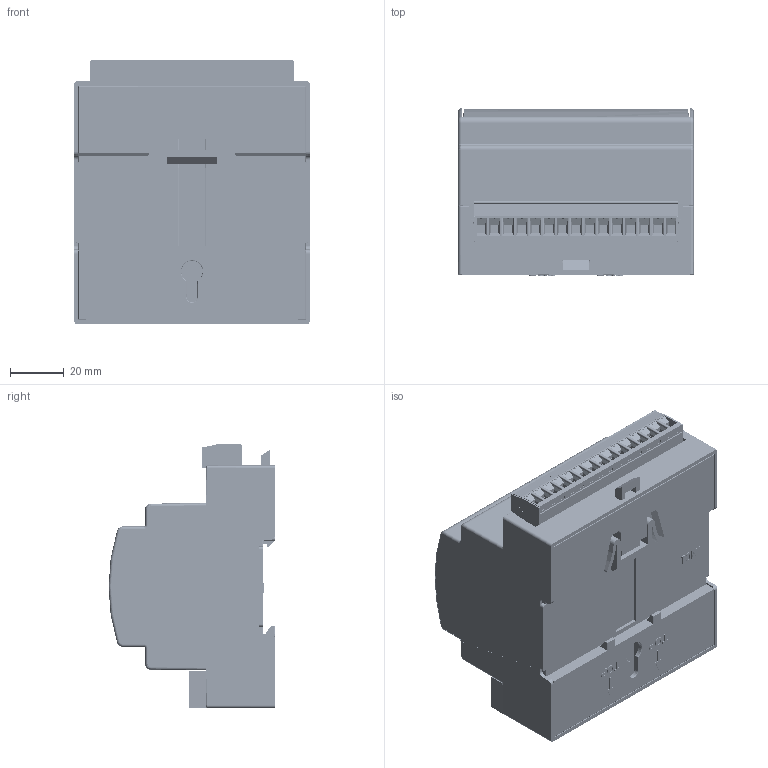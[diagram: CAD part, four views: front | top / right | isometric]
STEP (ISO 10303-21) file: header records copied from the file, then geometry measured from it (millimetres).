
FILE_DESCRIPTION(('FreeCAD Model'),'2;1');
FILE_NAME('Open CASCADE Shape Model','2025-03-25T09:20:34',(''),(''), 'Open CASCADE STEP processor 7.5','FreeCAD','Unknown');
FILE_SCHEMA(('AUTOMOTIVE_DESIGN { 1 0 10303 214 1 1 1 1 }'));
Length unit declared in the file: millimetre
Products named in the file (205): RM4x; RM45a_PCB-A_PCB; Parts; IC3; IC4; C2; C23; V3; V4; V6; V7; V8; V9; H1; H2; H3; H4; H7; H8; H9; H5; H10; V13; R17; R19; C39; PCB; Board; Open CASCADE STEP translator 7.5 1.1.2.1.1; M-00698-SEMPL_PRT; 2_250_03716; M-04091_ASM; BASE_5M-XT_PRT; CORPO_5M53-A_XTS_PRT; M45c_PCB; Parts003; S1; X009; C27; C26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
Assembly tree (204 placements, depth 5):
  RM4x
    RM45a_PCB-A_PCB
      Parts
        IC3
        IC4
        C2
        C23
        V3
        V4
        V6
        V7
        V8
        V9
        H1
        H2
        H3
        H4
        H7
        H8
        H9
        H5
        H10
        V13
        R17
        R19
        C39
      PCB
        Board
          Open CASCADE STEP translator 7.5 1.1.2.1.1
    M-00698-SEMPL_PRT
    2_250_03716
    M-04091_ASM
      BASE_5M-XT_PRT
      CORPO_5M53-A_XTS_PRT
    M45c_PCB
      Parts003
        S1
        X009
        C27
        C26
        K2
        V10
        C049
        R7
        R9
        R5
        V14
        V12
        V017
        C19
        C052
        C20
        C051
        D1
        C21
        C22
        C4
        F1
        C13
        V018
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Bounding box: 87.81 x 62.3 x 98.49 mm (x, y, z)
Volume: 138825.5 mm3; surface area: 153344.8 mm2
Topology: 646 solids, 646 shells, 14086 faces, 64297 edges, 110170 vertices
Faces by surface type: plane 9225, cylinder 3368, bspline 793, sphere 380, cone 133, torus 80, extrusion 79, revolution 28
Full cylindrical faces by diameter (mm): 0.302 x183, 0.381 x3, 0.469 x1, 0.787 x1, 0.9 x2, 0.902 x103, 0.913 x1, 0.993 x3, 1 x13, 1.002 x110, 1.102 x1, 1.16 x1, 1.2 x2, 1.302 x12, 1.402 x9, 1.5 x1, 1.502 x30, 1.544 x1, 1.669 x1, 1.96 x1, 2.12 x1, 2.702 x2, 3.812 x1, 3.88 x1, 3.938 x1, 4.04 x1, 4.41 x1, 4.84 x1, 5 x1, 5.6 x1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
Entity records: 1466698 total; most frequent: CARTESIAN_POINT 479049, DIRECTION 159537, VECTOR 104482, LINE 104403, ORIENTED_EDGE 71084, PCURVE 71068, DEFINITIONAL_REPRESENTATION 71068, EDGE_CURVE 35534
